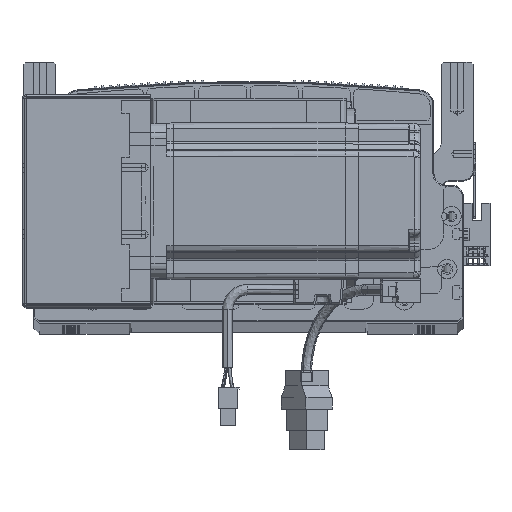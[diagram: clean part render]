
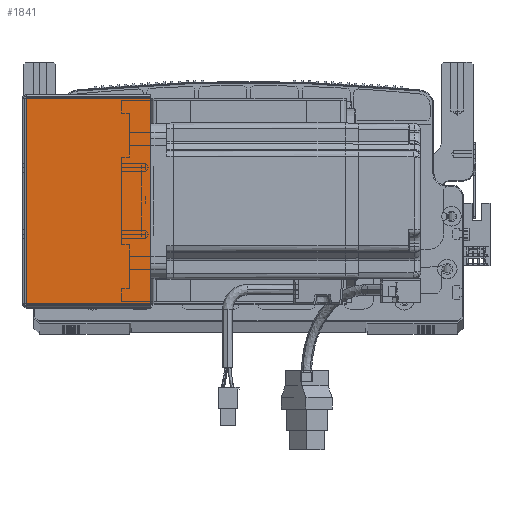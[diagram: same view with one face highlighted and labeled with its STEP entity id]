
A CAD part, top view. The second image highlights one B-rep face of the part: STEP entity #1841.
In plain terms, the highlighted planar face has unit normal (0, 0, 1) as drawn and (0, 0, -1) by its records, which use the part's own axes.
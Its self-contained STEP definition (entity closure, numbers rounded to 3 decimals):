
#1624 = EDGE_CURVE ( 'NONE', #82554, #77124, #54121, .T. ) ;
#1841 = ADVANCED_FACE ( 'NONE', ( #59994 ), #34853, .F. ) ;
#9514 = ORIENTED_EDGE ( 'NONE', *, *, #1624, .T. ) ;
#16550 = DIRECTION ( 'NONE',  ( 0., -1., 0. ) ) ;
#18042 = VERTEX_POINT ( 'NONE', #93141 ) ;
#18751 = DIRECTION ( 'NONE',  ( 1., 0., 0. ) ) ;
#19758 = CARTESIAN_POINT ( 'NONE',  ( 0., 0., -205.5 ) ) ;
#20397 = DIRECTION ( 'NONE',  ( 1., 0., 0. ) ) ;
#22805 = VECTOR ( 'NONE', #16550, 1000. ) ;
#27629 = EDGE_CURVE ( 'NONE', #18042, #82554, #45105, .T. ) ;
#28754 = VERTEX_POINT ( 'NONE', #84381 ) ;
#31117 = LINE ( 'NONE', #69771, #49093 ) ;
#33726 = VECTOR ( 'NONE', #69663, 1000. ) ;
#34853 = PLANE ( 'NONE',  #57002 ) ;
#40373 = ORIENTED_EDGE ( 'NONE', *, *, #61514, .F. ) ;
#41497 = CARTESIAN_POINT ( 'NONE',  ( 0., 105.293, -205.5 ) ) ;
#45105 = LINE ( 'NONE', #41497, #55964 ) ;
#49093 = VECTOR ( 'NONE', #54067, 1000. ) ;
#52916 = EDGE_LOOP ( 'NONE', ( #70578, #81972, #9514, #40373 ) ) ;
#54067 = DIRECTION ( 'NONE',  ( 1., 0., 0. ) ) ;
#54121 = LINE ( 'NONE', #77378, #33726 ) ;
#55964 = VECTOR ( 'NONE', #18751, 1000. ) ;
#57002 = AXIS2_PLACEMENT_3D ( 'NONE', #19758, #82406, #20397 ) ;
#59994 = FACE_OUTER_BOUND ( 'NONE', #52916, .T. ) ;
#61514 = EDGE_CURVE ( 'NONE', #28754, #77124, #31117, .T. ) ;
#69663 = DIRECTION ( 'NONE',  ( 0., -1., 0. ) ) ;
#69771 = CARTESIAN_POINT ( 'NONE',  ( 0., 0.707, -205.5 ) ) ;
#70118 = CARTESIAN_POINT ( 'NONE',  ( 0.737, 0., -205.5 ) ) ;
#70578 = ORIENTED_EDGE ( 'NONE', *, *, #76745, .F. ) ;
#76745 = EDGE_CURVE ( 'NONE', #18042, #28754, #80447, .T. ) ;
#77124 = VERTEX_POINT ( 'NONE', #79824 ) ;
#77378 = CARTESIAN_POINT ( 'NONE',  ( 64.5, 0., -205.5 ) ) ;
#79824 = CARTESIAN_POINT ( 'NONE',  ( 64.5, 0.707, -205.5 ) ) ;
#80447 = LINE ( 'NONE', #70118, #22805 ) ;
#81972 = ORIENTED_EDGE ( 'NONE', *, *, #27629, .T. ) ;
#82406 = DIRECTION ( 'NONE',  ( 0., 0., 1. ) ) ;
#82554 = VERTEX_POINT ( 'NONE', #89106 ) ;
#84381 = CARTESIAN_POINT ( 'NONE',  ( 0.737, 0.707, -205.5 ) ) ;
#89106 = CARTESIAN_POINT ( 'NONE',  ( 64.5, 105.293, -205.5 ) ) ;
#93141 = CARTESIAN_POINT ( 'NONE',  ( 0.737, 105.293, -205.5 ) ) ;
